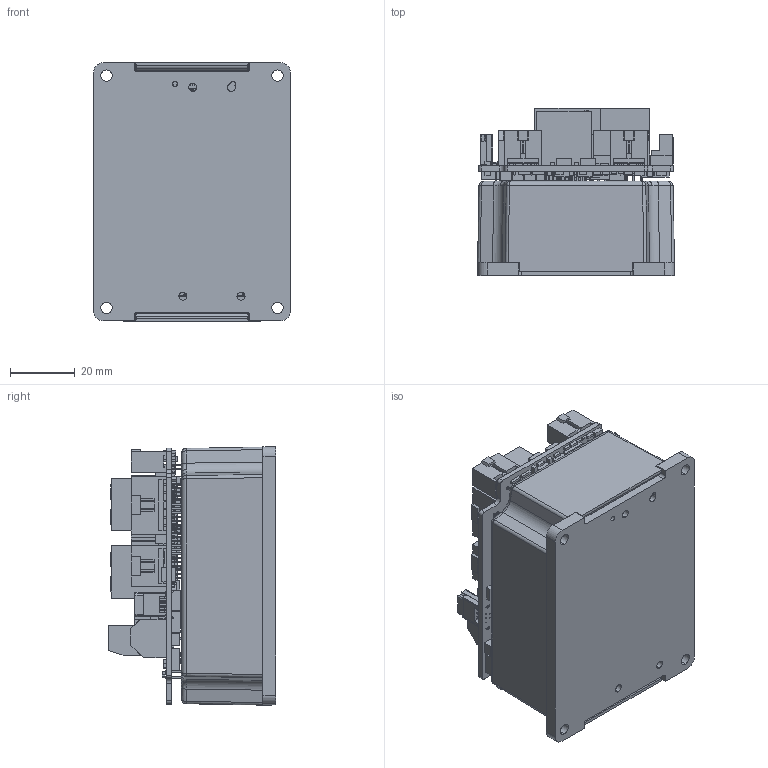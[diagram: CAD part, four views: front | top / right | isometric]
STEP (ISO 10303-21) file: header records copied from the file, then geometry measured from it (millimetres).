
FILE_DESCRIPTION (( 'STEP AP203' ), '1' );
FILE_NAME ('guitar v10V4.STEP', '2013-12-08T08:29:08', ( 'YAEL' ), ( 'Microsoft' ), 'SwSTEP 2.0', 'SolidWorks 2013', '' );
FILE_SCHEMA (( 'CONFIG_CONTROL_DESIGN' ));
Products named in the file (1): guitar v10V4
Bounding box: 61.01 x 51.94 x 80.15 mm (x, y, z)
Volume: 68402.8 mm3; surface area: 69352.8 mm2
Topology: 29 solids, 29 shells, 6090 faces, 15057 edges, 9712 vertices
Faces by surface type: plane 4925, cylinder 818, bspline 271, cone 76
Entity records: 191642 total; most frequent: CARTESIAN_POINT 46997, ORIENTED_EDGE 30092, DIRECTION 27699, EDGE_CURVE 15046, LINE 12783, VECTOR 12783, VERTEX_POINT 9712, AXIS2_PLACEMENT_3D 7458
